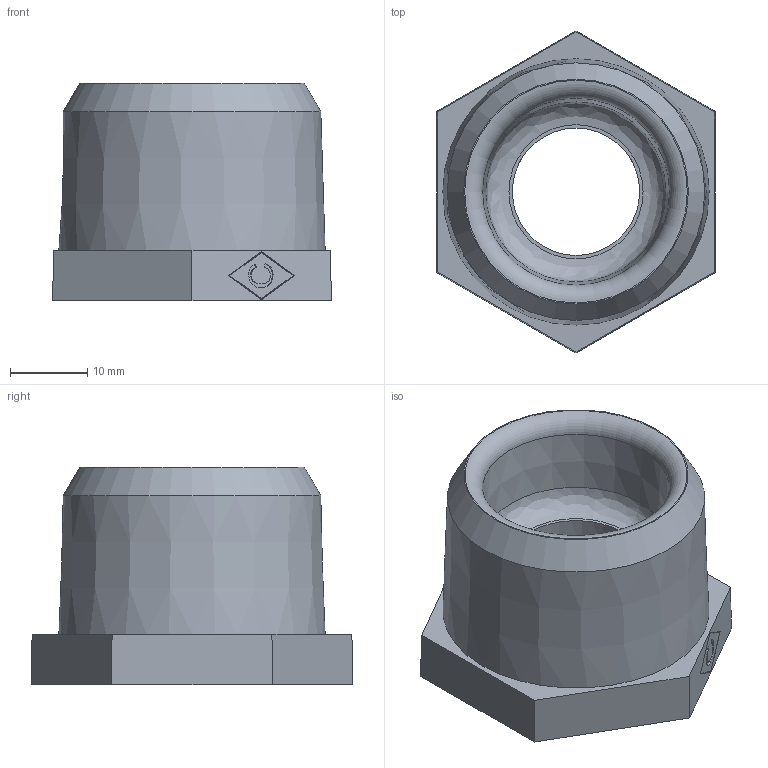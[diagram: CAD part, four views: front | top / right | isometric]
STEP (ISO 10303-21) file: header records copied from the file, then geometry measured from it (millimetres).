
FILE_DESCRIPTION((''),'2;1');
FILE_NAME('P:\Fastrack\53909_CRANE\Crane\Fig.140 Hexagon Bush\New 1.0 inch\140-1.00x0.stp','2009-09-14T09:15:44',('btaylor'),(''),'Autodesk Inventor 2008','Autodesk Inventor 2008','');
FILE_SCHEMA(('AUTOMOTIVE_DESIGN { 1 0 10303 214 1 1 1 1 }'));
Length unit declared in the file: millimetre
Products named in the file (1): 140-1.00x0.50
Bounding box: 36 x 41.57 x 28.1 mm (x, y, z)
Volume: 16756.1 mm3; surface area: 6146.2 mm2
Topology: 1 solids, 1 shells, 38 faces, 89 edges, 58 vertices
Faces by surface type: plane 23, bspline 9, cone 5, torus 1
Entity records: 1249 total; most frequent: CARTESIAN_POINT 411, ORIENTED_EDGE 164, DIRECTION 136, EDGE_CURVE 82, VERTEX_POINT 58, VECTOR 56, LINE 56, EDGE_LOOP 52
